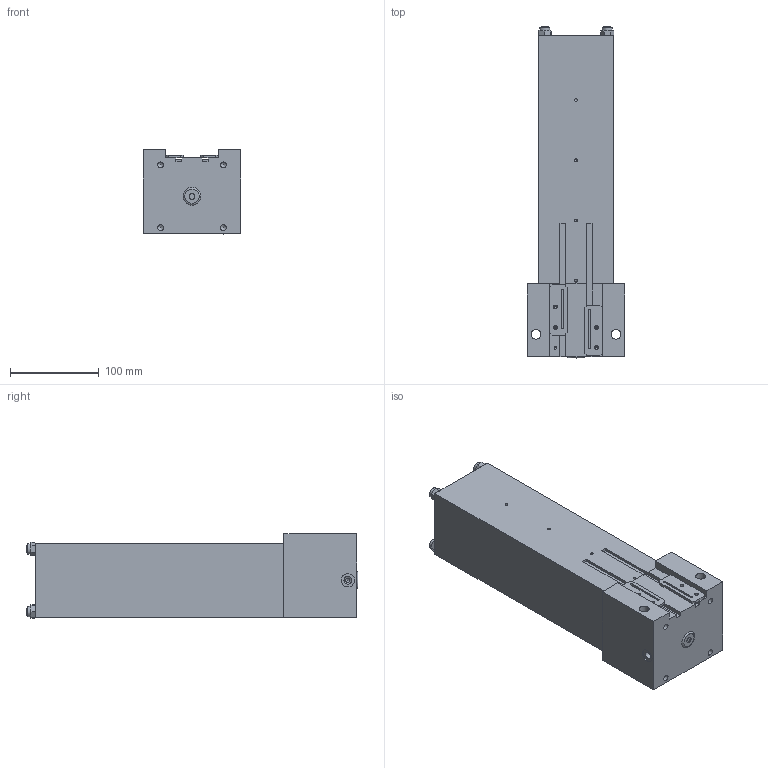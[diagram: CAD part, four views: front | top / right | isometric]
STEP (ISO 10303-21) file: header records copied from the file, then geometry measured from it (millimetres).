
FILE_DESCRIPTION((''),'2;1');
FILE_NAME('C:\VaultWork\Zeichnungen\Maßblätter\Multizylinder\M 75\M75-50\MZ01558-3-1 Maßblatt Multizylinder M75-5-50 Berührungslose Abfrage.stp','2014-01-24T11:19:38',('Sergeew'),(''),'Autodesk Inventor 2012','Autodesk Inventor 2012','');
FILE_SCHEMA(('AUTOMOTIVE_DESIGN { 1 0 10303 214 1 1 1 1 }'));
Length unit declared in the file: millimetre
Products named in the file (1): MZ01558-3-1 Maßblatt Multizylinder M75-5-50 Berührungslose Abfrage
Bounding box: 110 x 374.5 x 95.36 mm (x, y, z)
Volume: 2761034.3 mm3; surface area: 167215.5 mm2
Topology: 1 solids, 6 shells, 185 faces, 446 edges, 288 vertices
Faces by surface type: plane 103, cylinder 45, cone 36, torus 1
Full cylindrical faces by diameter (mm): 3 x4, 3.242 x6, 4.3 x4, 5 x1, 6.647 x5, 8 x8, 8.566 x2, 9 x4, 11 x2, 11.6 x4, 15 x1
Entity records: 4805 total; most frequent: CARTESIAN_POINT 866, DIRECTION 764, ORIENTED_EDGE 664, EDGE_CURVE 332, AXIS2_PLACEMENT_3D 294, EDGE_LOOP 290, VERTEX_POINT 252, FACE_OUTER_BOUND 185
